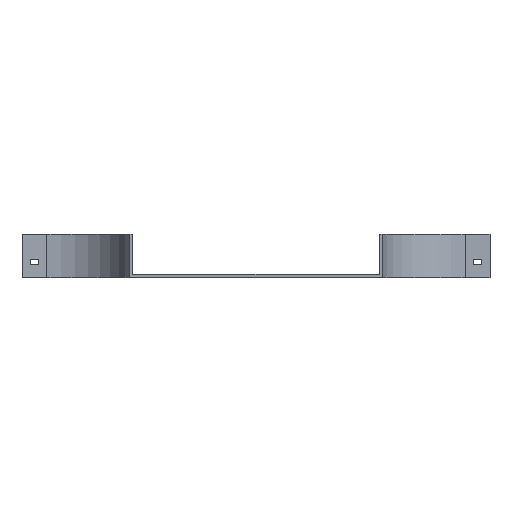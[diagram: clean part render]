
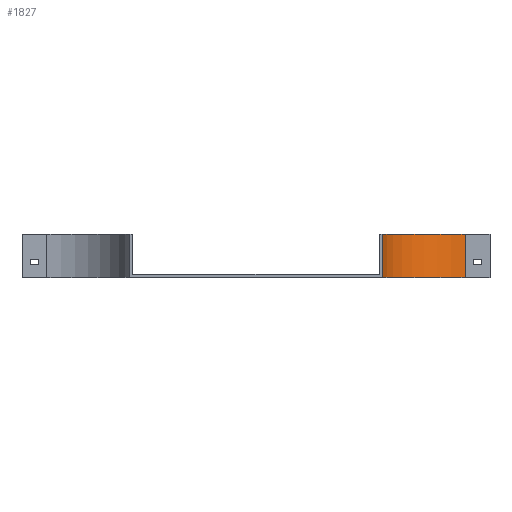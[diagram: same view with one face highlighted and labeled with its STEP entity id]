
A CAD part, top view. The second image highlights one B-rep face of the part: STEP entity #1827.
In plain terms, the highlighted cylindrical face has radius 100 mm (diameter 200 mm), a partial arc.
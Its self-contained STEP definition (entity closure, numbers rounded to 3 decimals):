
#183 = LINE ( 'NONE', #812, #976 ) ;
#244 = VERTEX_POINT ( 'NONE', #753 ) ;
#257 = ORIENTED_EDGE ( 'NONE', *, *, #466, .T. ) ;
#328 = DIRECTION ( 'NONE',  ( 0., -1., 0. ) ) ;
#408 = EDGE_CURVE ( 'NONE', #244, #1515, #894, .T. ) ;
#421 = EDGE_LOOP ( 'NONE', ( #257, #2661, #2495, #1548 ) ) ;
#466 = EDGE_CURVE ( 'NONE', #1515, #1663, #2142, .T. ) ;
#559 = CARTESIAN_POINT ( 'NONE',  ( -100., 0., 0. ) ) ;
#639 = DIRECTION ( 'NONE',  ( 0., -1., 0. ) ) ;
#651 = DIRECTION ( 'NONE',  ( 0., -1., 0. ) ) ;
#671 = CYLINDRICAL_SURFACE ( 'NONE', #2161, 100. ) ;
#753 = CARTESIAN_POINT ( 'NONE',  ( -100., 52., 0. ) ) ;
#779 = CARTESIAN_POINT ( 'NONE',  ( 0., 52., 0. ) ) ;
#792 = DIRECTION ( 'NONE',  ( 0., 0., -1. ) ) ;
#812 = CARTESIAN_POINT ( 'NONE',  ( 0., 52., -100. ) ) ;
#894 = LINE ( 'NONE', #1731, #1881 ) ;
#918 = VERTEX_POINT ( 'NONE', #1702 ) ;
#976 = VECTOR ( 'NONE', #1611, 1000. ) ;
#1236 = EDGE_CURVE ( 'NONE', #918, #1663, #183, .T. ) ;
#1335 = AXIS2_PLACEMENT_3D ( 'NONE', #1701, #639, #1485 ) ;
#1485 = DIRECTION ( 'NONE',  ( 0., 0., -1. ) ) ;
#1515 = VERTEX_POINT ( 'NONE', #559 ) ;
#1548 = ORIENTED_EDGE ( 'NONE', *, *, #408, .T. ) ;
#1583 = EDGE_CURVE ( 'NONE', #244, #918, #2564, .T. ) ;
#1611 = DIRECTION ( 'NONE',  ( 0., -1., 0. ) ) ;
#1663 = VERTEX_POINT ( 'NONE', #2137 ) ;
#1701 = CARTESIAN_POINT ( 'NONE',  ( 0., 52., 0. ) ) ;
#1702 = CARTESIAN_POINT ( 'NONE',  ( 0., 52., -100. ) ) ;
#1721 = CARTESIAN_POINT ( 'NONE',  ( 0., 0., 0. ) ) ;
#1731 = CARTESIAN_POINT ( 'NONE',  ( -100., 52., 0. ) ) ;
#1827 = ADVANCED_FACE ( 'NONE', ( #2226 ), #671, .F. ) ;
#1881 = VECTOR ( 'NONE', #2406, 1000. ) ;
#1926 = DIRECTION ( 'NONE',  ( 0., 0., -1. ) ) ;
#2137 = CARTESIAN_POINT ( 'NONE',  ( 0., 0., -100. ) ) ;
#2142 = CIRCLE ( 'NONE', #2466, 100. ) ;
#2161 = AXIS2_PLACEMENT_3D ( 'NONE', #779, #328, #792 ) ;
#2226 = FACE_OUTER_BOUND ( 'NONE', #421, .T. ) ;
#2406 = DIRECTION ( 'NONE',  ( 0., -1., 0. ) ) ;
#2466 = AXIS2_PLACEMENT_3D ( 'NONE', #1721, #651, #1926 ) ;
#2495 = ORIENTED_EDGE ( 'NONE', *, *, #1583, .F. ) ;
#2564 = CIRCLE ( 'NONE', #1335, 100. ) ;
#2661 = ORIENTED_EDGE ( 'NONE', *, *, #1236, .F. ) ;
